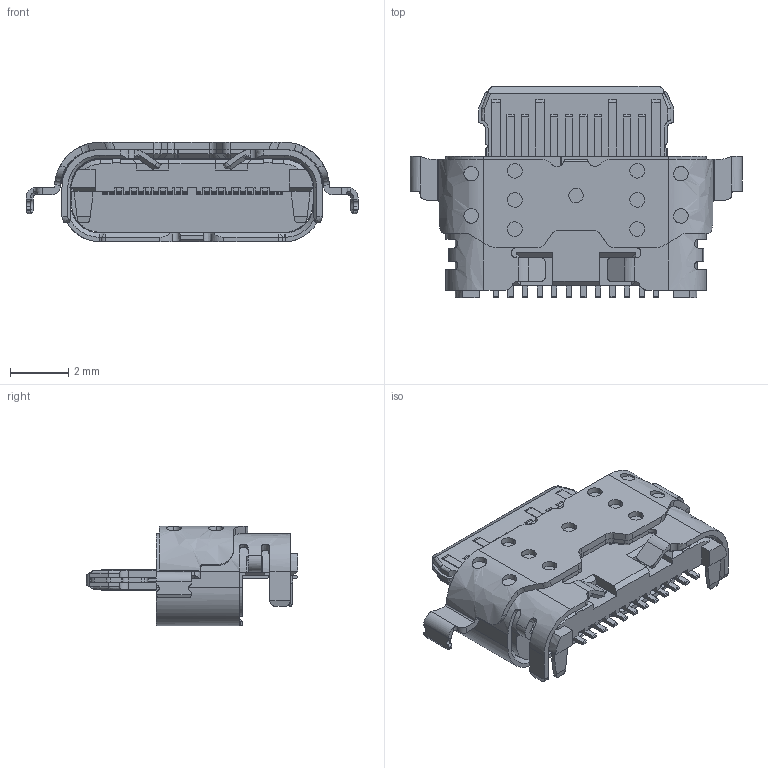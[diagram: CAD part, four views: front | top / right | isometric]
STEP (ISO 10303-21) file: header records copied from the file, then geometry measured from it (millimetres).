
FILE_DESCRIPTION (( 'STEP AP203' ), '1' );
FILE_NAME ('U5110-24PN1.6CW7.25L.STEP', '2026-09-01T01:14:11', ( '' ), ( '' ), 'SwSTEP 2.0', 'SolidWorks 2024', '' );
FILE_SCHEMA (( 'CONFIG_CONTROL_DESIGN' ));
Length unit declared in the file: millimetre
Products named in the file (1): U5110-24PN1.6CW7.25L
Bounding box: 11.4 x 7.25 x 3.41 mm (x, y, z)
Surface area: 415.2 mm2 (no closed solid volume)
Topology: 0 solids, 3 shells, 1020 faces, 2800 edges, 1774 vertices
Faces by surface type: plane 682, bspline 338
Entity records: 35364 total; most frequent: CARTESIAN_POINT 12077, ORIENTED_EDGE 5556, DIRECTION 3632, EDGE_CURVE 2790, VECTOR 2088, LINE 2088, VERTEX_POINT 1774, EDGE_LOOP 1042
